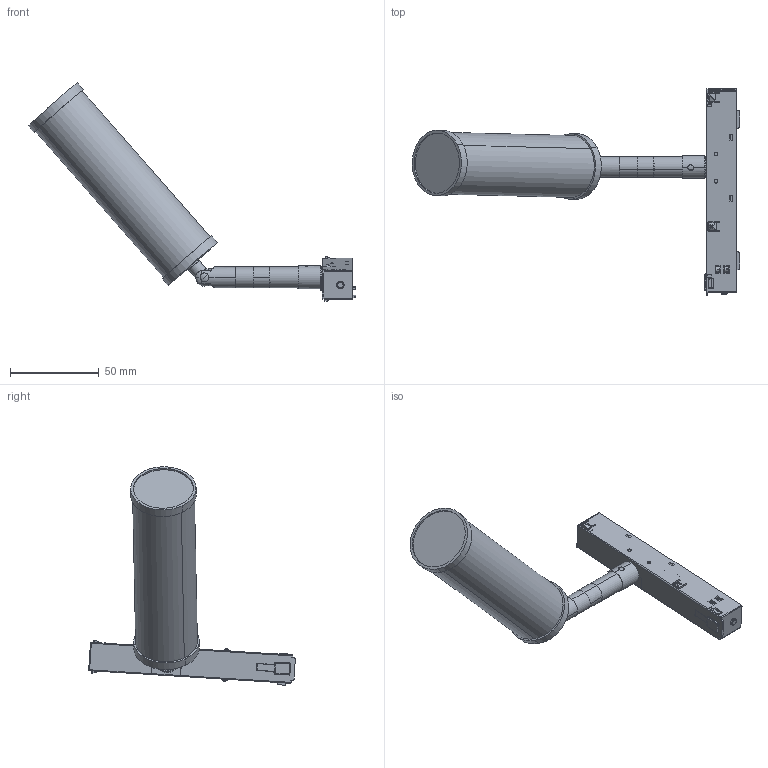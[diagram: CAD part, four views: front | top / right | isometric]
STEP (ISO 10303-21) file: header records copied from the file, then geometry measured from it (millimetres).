
FILE_DESCRIPTION (( 'STEP AP214' ), '1' );
FILE_NAME ('COCO_tracklight.STEP', '2025-09-16T14:34:27', ( '' ), ( '' ), 'SwSTEP 2.0', 'SolidWorks 2018', '' );
FILE_SCHEMA (( 'AUTOMOTIVE_DESIGN' ));
Length unit declared in the file: millimetre
Products named in the file (6): Cabeza_coco; COCO_tracklight; Rotula1 1; Rotula_coco; prueba 2; rotula3 1
Assembly tree (5 placements, depth 2):
  COCO_tracklight
    Rotula1 1
    rotula3 1
    prueba 2
    Cabeza_coco
    Rotula_coco
Bounding box: 185.02 x 116.69 x 123.4 mm (x, y, z)
Volume: 121094.3 mm3; surface area: 53336.2 mm2
Topology: 8 solids, 37 shells, 1620 faces, 4493 edges, 2931 vertices
Faces by surface type: plane 1232, cylinder 255, bspline 77, cone 44, torus 10, sphere 2
Entity records: 74064 total; most frequent: CARTESIAN_POINT 17907, ORIENTED_EDGE 8932, DIRECTION 6545, EDGE_CURVE 4472, VERTEX_POINT 2929, VECTOR 2621, LINE 2621, AXIS2_PLACEMENT_3D 1962
